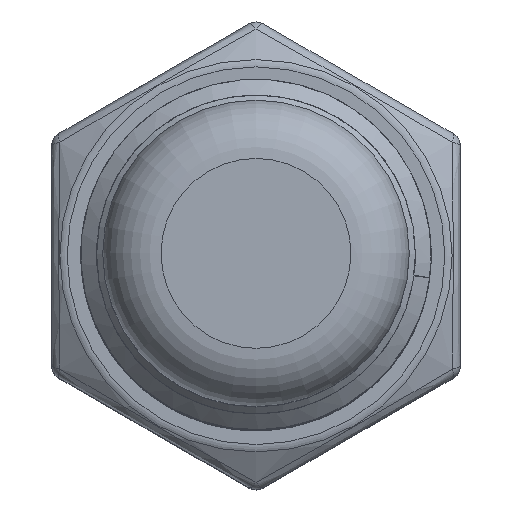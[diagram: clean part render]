
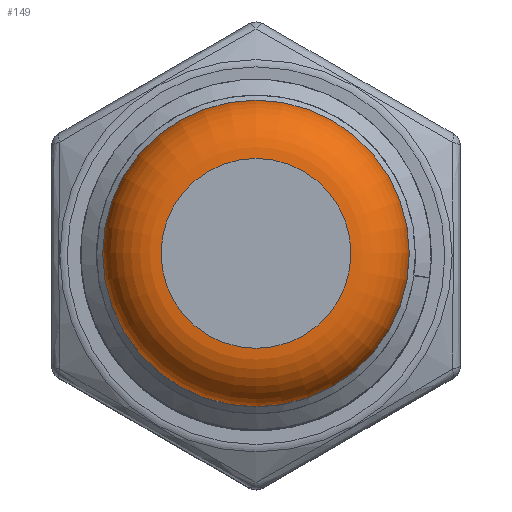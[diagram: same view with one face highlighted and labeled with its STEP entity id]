
A CAD part, top view. The second image highlights one B-rep face of the part: STEP entity #149.
In plain terms, the highlighted toroidal (fillet/blend) face has major radius 3.25 mm and minor radius 2 mm.
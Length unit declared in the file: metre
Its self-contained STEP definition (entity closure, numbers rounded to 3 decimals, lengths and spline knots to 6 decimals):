
#149=ADVANCED_FACE('',(#266,#267),#268,.T.);
#266=FACE_OUTER_BOUND('',#515,.T.);
#267=FACE_OUTER_BOUND('',#516,.T.);
#268=TOROIDAL_SURFACE('',#517,0.00325,0.002);
#515=EDGE_LOOP('',(#7274));
#516=EDGE_LOOP('',(#7275));
#517=AXIS2_PLACEMENT_3D('',#7276,#7277,#7278);
#7274=ORIENTED_EDGE('',*,*,#7878,.F.);
#7275=ORIENTED_EDGE('',*,*,#7880,.F.);
#7276=CARTESIAN_POINT('',(0.0,0.0,0.0055));
#7277=DIRECTION('',(0.0,0.0,1.0));
#7278=DIRECTION('',(1.0,0.0,0.0));
#7878=EDGE_CURVE('',#8060,#8060,#8061,.F.);
#7880=EDGE_CURVE('',#8064,#8064,#8065,.T.);
#8060=VERTEX_POINT('',#8347);
#8061=CIRCLE('',#8348,0.00525);
#8064=VERTEX_POINT('',#8351);
#8065=CIRCLE('',#8352,0.00325);
#8347=CARTESIAN_POINT('',(0.00525,0.0,0.0055));
#8348=AXIS2_PLACEMENT_3D('',#11984,#11985,#11986);
#8351=CARTESIAN_POINT('',(0.00325,0.0,0.0075));
#8352=AXIS2_PLACEMENT_3D('',#11990,#11991,#11992);
#11984=CARTESIAN_POINT('',(0.0,0.0,0.0055));
#11985=DIRECTION('',(0.0,0.0,1.0));
#11986=DIRECTION('',(1.0,0.0,0.0));
#11990=CARTESIAN_POINT('',(0.0,0.0,0.0075));
#11991=DIRECTION('',(0.0,0.0,1.0));
#11992=DIRECTION('',(1.0,0.0,0.0));
